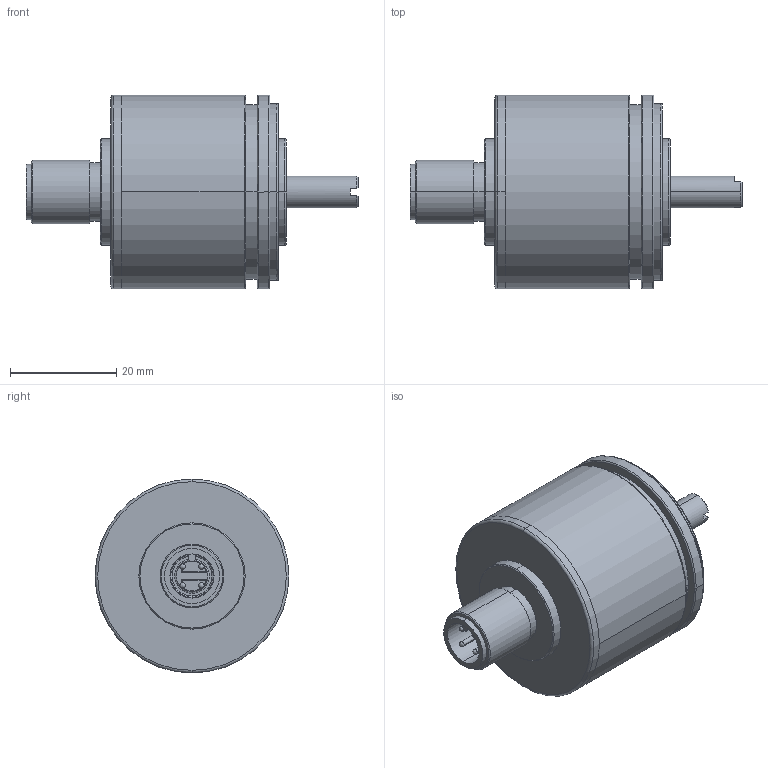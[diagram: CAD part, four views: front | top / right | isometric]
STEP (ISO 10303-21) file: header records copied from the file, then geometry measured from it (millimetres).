
FILE_DESCRIPTION (( 'STEP AP214' ), '1' );
FILE_NAME ('084.2.2_M12-montiert_00.STEP', '2012-05-22T13:54:31', ( 'mega' ), ( 'mega' ), 'SwSTEP 2.0', 'SolidWorks 2012', '' );
FILE_SCHEMA (( 'AUTOMOTIVE_DESIGN' ));
Length unit declared in the file: millimetre
Products named in the file (1): 084.2.2_M12-montiert_00
Bounding box: 62.5 x 36.5 x 36.5 mm (x, y, z)
Surface area: 7924.5 mm2 (no closed solid volume)
Topology: 0 solids, 10 shells, 124 faces, 307 edges, 195 vertices
Faces by surface type: cylinder 52, plane 29, torus 24, cone 15, bspline 4
Entity records: 5100 total; most frequent: DIRECTION 732, CARTESIAN_POINT 691, ORIENTED_EDGE 538, AXIS2_PLACEMENT_3D 316, EDGE_CURVE 299, CIRCLE 195, VERTEX_POINT 195, EDGE_LOOP 143
